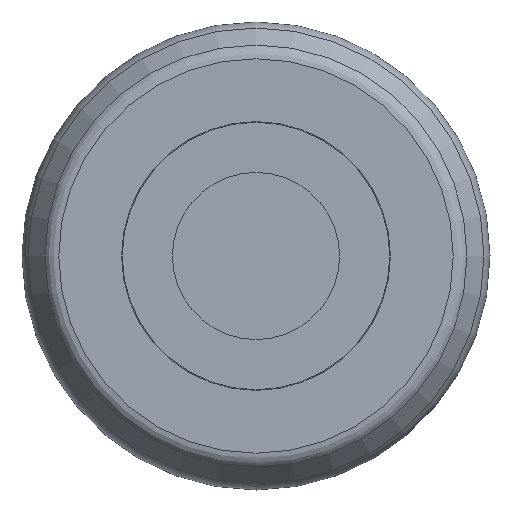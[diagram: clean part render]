
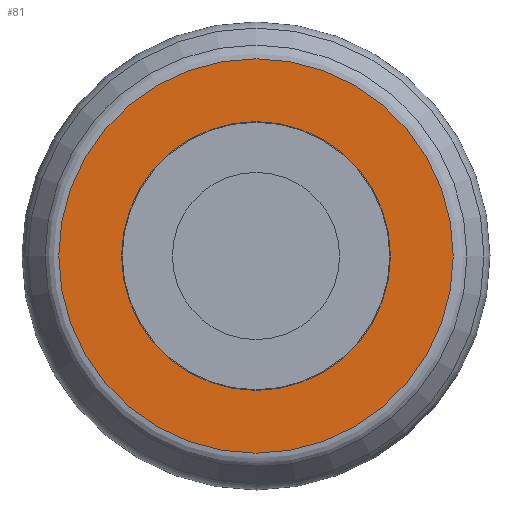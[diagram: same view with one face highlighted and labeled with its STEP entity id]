
A CAD part, left-side view. The second image highlights one B-rep face of the part: STEP entity #81.
In plain terms, the highlighted planar face has unit normal (-1, 0, 0).
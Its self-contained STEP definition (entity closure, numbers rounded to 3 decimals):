
#81 = ADVANCED_FACE( '', ( #121, #122 ), #123, .F. );
#121 = FACE_OUTER_BOUND( '', #198, .T. );
#122 = FACE_BOUND( '', #199, .T. );
#123 = PLANE( '', #200 );
#198 = EDGE_LOOP( '', ( #287 ) );
#199 = EDGE_LOOP( '', ( #288 ) );
#200 = AXIS2_PLACEMENT_3D( '', #289, #290, #291 );
#287 = ORIENTED_EDGE( '', *, *, #425, .F. );
#288 = ORIENTED_EDGE( '', *, *, #424, .T. );
#289 = CARTESIAN_POINT( '', ( -2., 4.02, 0. ) );
#290 = DIRECTION( '', ( 1., 0., 0. ) );
#291 = DIRECTION( '', ( 0., 0., -1. ) );
#424 = EDGE_CURVE( '', #468, #468, #469, .T. );
#425 = EDGE_CURVE( '', #470, #470, #471, .T. );
#468 = VERTEX_POINT( '', #538 );
#469 = CIRCLE( '', #539, 4.02 );
#470 = VERTEX_POINT( '', #540 );
#471 = CIRCLE( '', #541, 5.899 );
#538 = CARTESIAN_POINT( '', ( -2., 0., -4.02 ) );
#539 = AXIS2_PLACEMENT_3D( '', #631, #632, #633 );
#540 = CARTESIAN_POINT( '', ( -2., 0., -5.899 ) );
#541 = AXIS2_PLACEMENT_3D( '', #634, #635, #636 );
#631 = CARTESIAN_POINT( '', ( -2., 0., 0. ) );
#632 = DIRECTION( '', ( 1., 0., 0. ) );
#633 = DIRECTION( '', ( 0., 0., -1. ) );
#634 = CARTESIAN_POINT( '', ( -2., 0., 0. ) );
#635 = DIRECTION( '', ( 1., 0., 0. ) );
#636 = DIRECTION( '', ( 0., 0., -1. ) );
